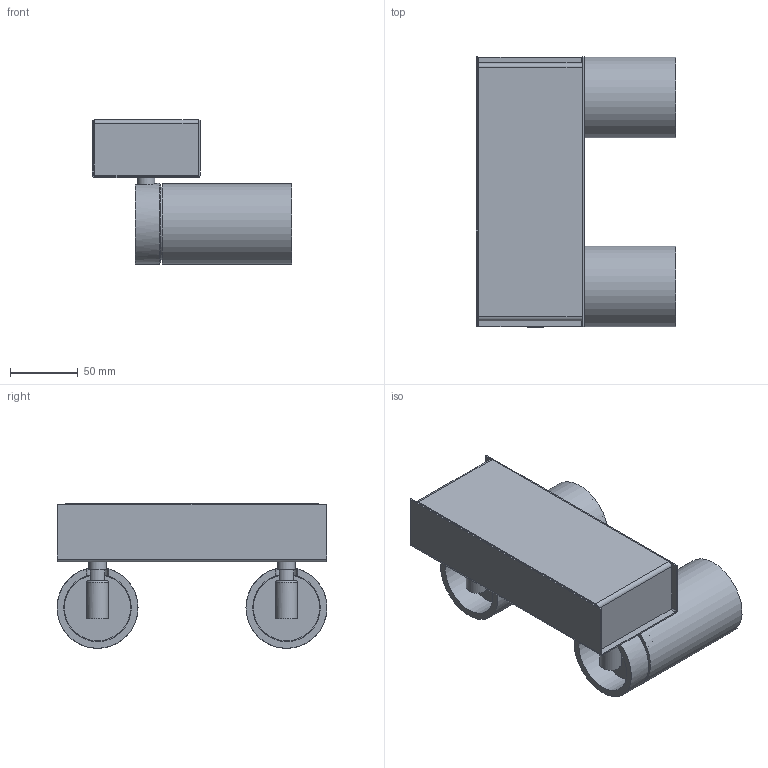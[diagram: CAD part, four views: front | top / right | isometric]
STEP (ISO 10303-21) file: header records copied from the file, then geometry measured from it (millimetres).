
FILE_DESCRIPTION(/* description */ (''),/* implementation_level */ '2;1');
FILE_NAME(/* name */ 'DOT P DE.stp',/* time_stamp */ '2024-02-12T09:08:58+01:00',/* author */ ('n.bisotti'),/* organization */ (''),/* preprocessor_version */ 'ST-DEVELOPER v19.2',/* originating_system */ 'Autodesk Inventor 2023',/* authorisation */ '');
FILE_SCHEMA (('AUTOMOTIVE_DESIGN { 1 0 10303 214 3 1 1 }'));
Length unit declared in the file: centimetre
Products named in the file (1): DOT P DE parte
Bounding box: 147.9 x 200 x 107.1 mm (x, y, z)
Volume: 434906.4 mm3; surface area: 298080 mm2
Topology: 22 solids, 22 shells, 324 faces, 720 edges, 474 vertices
Faces by surface type: plane 179, cylinder 119, cone 20, sphere 4, torus 2
Full cylindrical faces by diameter (mm): 2.459 x4, 3 x1, 4 x1, 5.38 x2, 5.4 x6, 8.917 x5, 10 x1, 13 x2, 16 x3, 48 x2, 49 x2, 50 x2, 51.9 x2, 53 x2, 54 x2, 54.5 x4, 55 x2, 55.835 x2, 57.5 x2, 58 x6, 60 x4
Entity records: 9634 total; most frequent: CARTESIAN_POINT 1802, DIRECTION 1597, ORIENTED_EDGE 1430, EDGE_CURVE 715, AXIS2_PLACEMENT_3D 599, VERTEX_POINT 473, LINE 399, VECTOR 399
